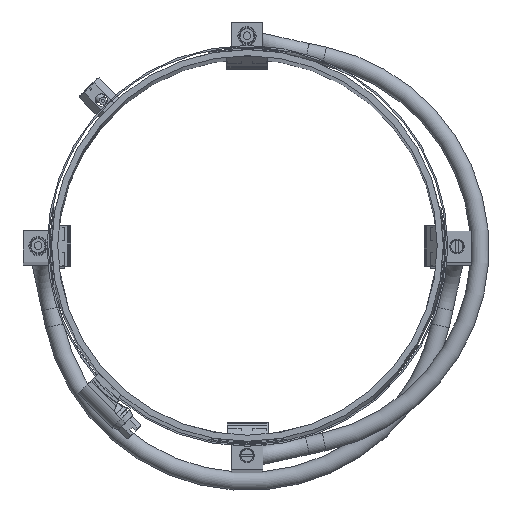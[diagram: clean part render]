
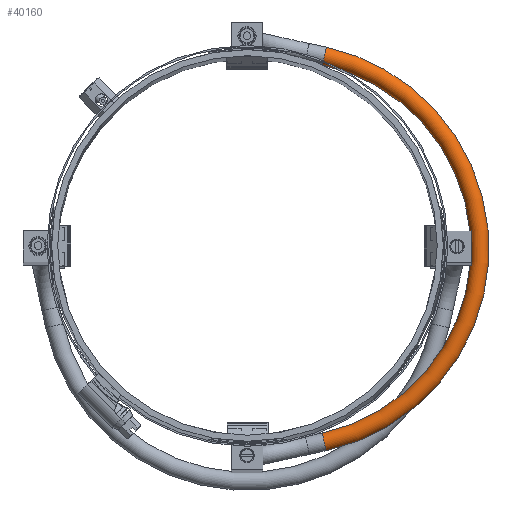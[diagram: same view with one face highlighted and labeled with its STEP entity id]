
A CAD part, top view. The second image highlights one B-rep face of the part: STEP entity #40160.
In plain terms, the highlighted toroidal (fillet/blend) face has major radius 65 mm and minor radius 3 mm.
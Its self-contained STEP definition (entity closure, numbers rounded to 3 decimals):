
#8407=TOROIDAL_SURFACE('',#39334,65.,3.);
#10980=ORIENTED_EDGE('',*,*,#13468,.T.);
#10981=ORIENTED_EDGE('',*,*,#13469,.F.);
#12021=CIRCLE('',#39333,3.);
#12022=CIRCLE('',#39335,3.);
#12580=VERTEX_POINT('',#31498);
#12581=VERTEX_POINT('',#31501);
#13468=EDGE_CURVE('',#12580,#12580,#12021,.T.);
#13469=EDGE_CURVE('',#12581,#12581,#12022,.T.);
#14165=EDGE_LOOP('',(#10980));
#14166=EDGE_LOOP('',(#10981));
#14720=FACE_BOUND('',#14165,.T.);
#14721=FACE_BOUND('',#14166,.T.);
#16155=DIRECTION('',(0.977,-0.212,0.));
#16156=DIRECTION('',(-0.135,-0.621,-2.932));
#16157=DIRECTION('',(0.,0.,1.));
#16158=DIRECTION('',(0.,-1.,0.));
#16159=DIRECTION('',(-0.977,-0.211,0.));
#16160=DIRECTION('',(-0.134,0.621,-2.932));
#31498=CARTESIAN_POINT('',(25.197,62.891,45.068));
#31499=CARTESIAN_POINT('',(25.332,63.512,48.));
#31500=CARTESIAN_POINT('',(11.559,-0.012,48.));
#31501=CARTESIAN_POINT('',(25.14,-62.927,45.068));
#31502=CARTESIAN_POINT('',(25.275,-63.548,48.));
#39333=AXIS2_PLACEMENT_3D('',#31499,#16155,#16156);
#39334=AXIS2_PLACEMENT_3D('',#31500,#16157,#16158);
#39335=AXIS2_PLACEMENT_3D('',#31502,#16159,#16160);
#40160=ADVANCED_FACE('',(#14720,#14721),#8407,.T.);
